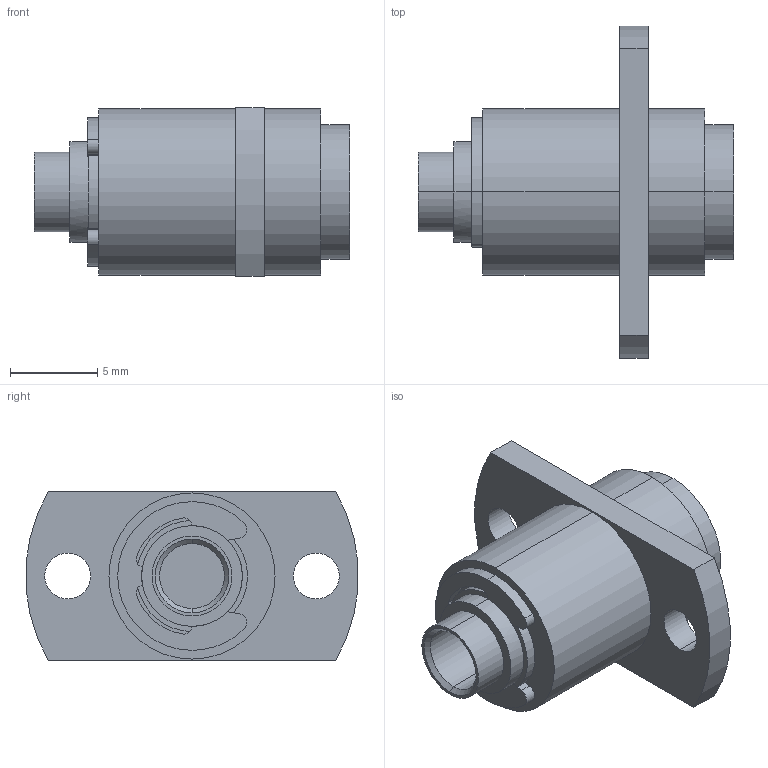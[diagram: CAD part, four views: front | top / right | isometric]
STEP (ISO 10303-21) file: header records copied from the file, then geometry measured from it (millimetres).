
FILE_DESCRIPTION (( 'STEP AP214' ), '1' );
FILE_NAME ('SF1732-6004.STEP', '2016-02-08T15:40:28', ( '' ), ( '' ), 'SwSTEP 2.0', 'SolidWorks 2015', '' );
FILE_SCHEMA (( 'AUTOMOTIVE_DESIGN' ));
Length unit declared in the file: inch
Products named in the file (1): SF1732-6004
Bounding box: 18.03 x 19 x 9.65 mm (x, y, z)
Volume: 1045.7 mm3; surface area: 1047.2 mm2
Topology: 1 solids, 1 shells, 68 faces, 164 edges, 108 vertices
Faces by surface type: cylinder 40, plane 22, cone 6
Entity records: 2849 total; most frequent: DIRECTION 400, CARTESIAN_POINT 341, ORIENTED_EDGE 328, AXIS2_PLACEMENT_3D 167, EDGE_CURVE 164, VERTEX_POINT 108, CIRCLE 98, EDGE_LOOP 82
